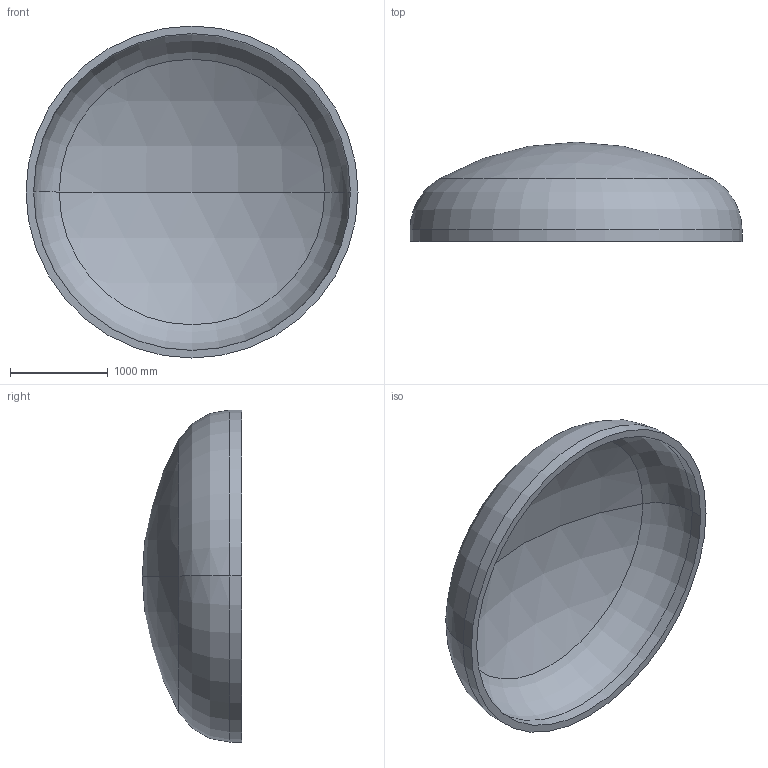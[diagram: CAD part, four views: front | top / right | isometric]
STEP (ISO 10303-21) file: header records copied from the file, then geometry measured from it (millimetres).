
FILE_DESCRIPTION (( 'STEP AP203' ), '1' );
FILE_NAME ('DIN 28013 Korbbogenform_-_Boden DIN 28013 - 3400 x 120 - I - s=78.step', '2016-07-01T19:45:12', ( '' ), ( '' ), 'SwSTEP 2.0', 'SolidWorks 2013', '' );
FILE_SCHEMA (( 'CONFIG_CONTROL_DESIGN' ));
Length unit declared in the file: millimetre
Products named in the file (1): DIN 28013 Korbbogenform_-_Boden DIN 28013 - 3400 x 120 - I - s=78
Bounding box: 3400 x 1016.79 x 3400 mm (x, y, z)
Volume: 1049889067.8 mm3; surface area: 27747002.6 mm2
Topology: 1 solids, 1 shells, 13 faces, 24 edges, 14 vertices
Faces by surface type: torus 4, cylinder 4, sphere 4, plane 1
Entity records: 407 total; most frequent: DIRECTION 72, CARTESIAN_POINT 52, ORIENTED_EDGE 48, AXIS2_PLACEMENT_3D 34, EDGE_CURVE 24, CIRCLE 20, VERTEX_POINT 14, EDGE_LOOP 14
